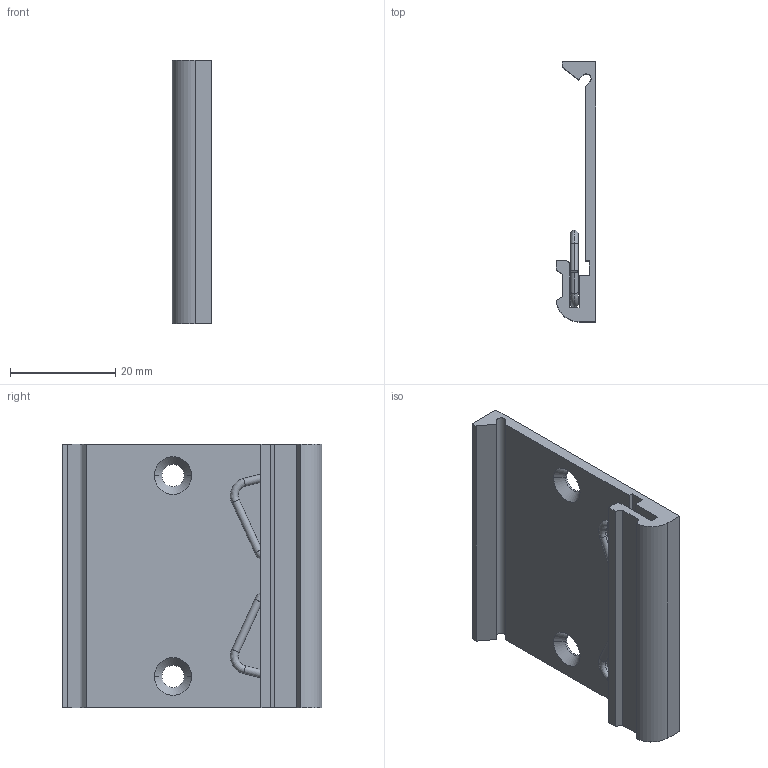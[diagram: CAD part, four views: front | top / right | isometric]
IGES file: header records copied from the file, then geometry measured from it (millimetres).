
Start section:  PTC IGES file: cu_din_rail_ni-9913.igs
Global section: file name: cu_din_rail_ni-9913.igs; native system: Creo Parametric by Parametric Technology Corporation; preprocessor: 2015280; author: dkendric; organization: Unknown; date: 20160412.094347; units: inch
Bounding box: 7.49 x 49.28 x 50 mm (x, y, z)
Surface area: 7650.1 mm2 (no closed solid volume)
Topology: 0 solids, 0 shells, 56 faces, 272 edges, 272 vertices
Faces by surface type: revolution 33, bspline 23
